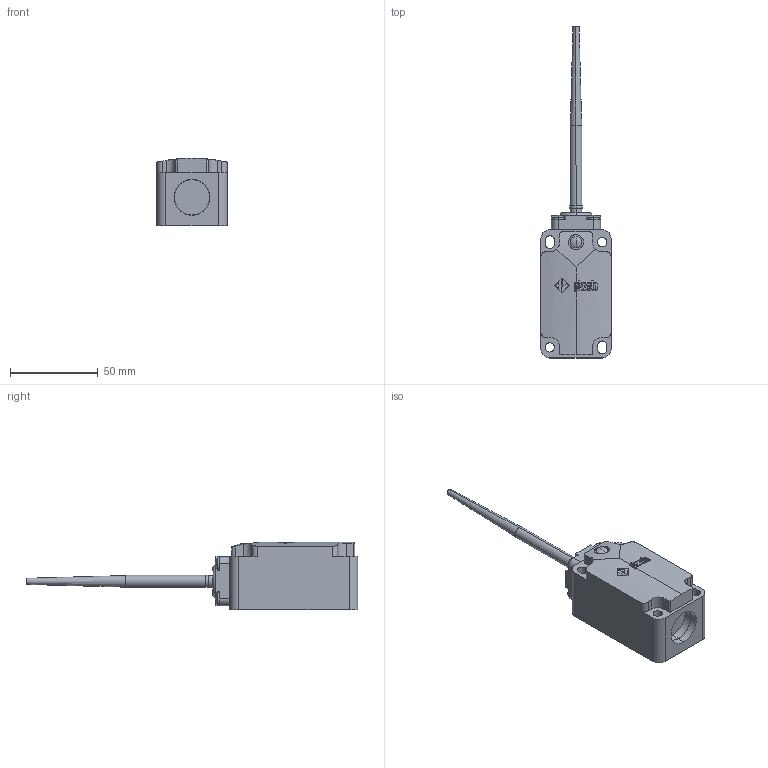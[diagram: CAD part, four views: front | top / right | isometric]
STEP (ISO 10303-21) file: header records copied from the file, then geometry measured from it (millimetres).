
FILE_DESCRIPTION (( 'STEP AP214' ), '1' );
FILE_NAME ('ZF_STEP_FP_x20.step', '2015-05-14T14:37:24', ( 'utente' ), ( 'Microsoft' ), 'SwSTEP 2.0', 'SolidWorks 2014', '' );
FILE_SCHEMA (( 'AUTOMOTIVE_DESIGN' ));
Length unit declared in the file: millimetre
Products named in the file (3): ZF_STEP_VF_T20; Pizzato_Custodia_FP; ZF_STEP_FP_x20
Assembly tree (2 placements, depth 2):
  ZF_STEP_FP_x20
    Pizzato_Custodia_FP
    ZF_STEP_VF_T20
Bounding box: 40 x 189.2 x 38.5 mm (x, y, z)
Volume: 108564.3 mm3; surface area: 22614.8 mm2
Topology: 2 solids, 2 shells, 415 faces, 1099 edges, 731 vertices
Faces by surface type: plane 229, bspline 97, cylinder 73, sphere 10, torus 4, cone 2
Entity records: 17998 total; most frequent: CARTESIAN_POINT 8160, ORIENTED_EDGE 2198, DIRECTION 1681, EDGE_CURVE 1099, VERTEX_POINT 731, VECTOR 651, LINE 651, AXIS2_PLACEMENT_3D 515
